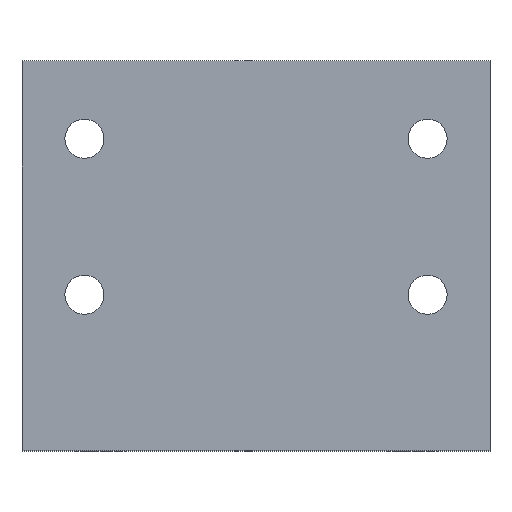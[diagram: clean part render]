
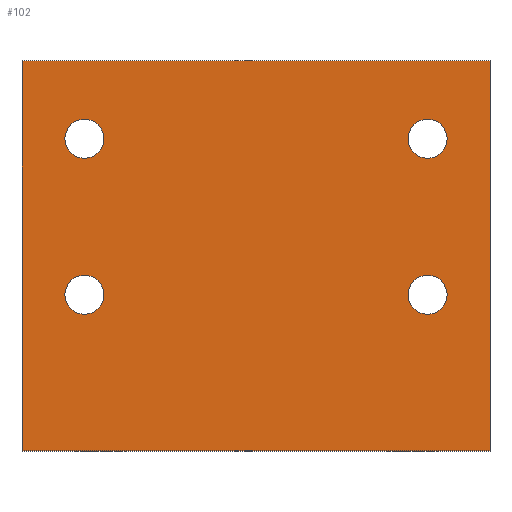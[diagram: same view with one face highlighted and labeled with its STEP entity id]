
A CAD part, top view. The second image highlights one B-rep face of the part: STEP entity #102.
In plain terms, the highlighted planar face has unit normal (0, 0, 1).
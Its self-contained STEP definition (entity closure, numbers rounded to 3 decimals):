
#14 = CARTESIAN_POINT ( 'NONE',  ( 26., 10., 0. ) ) ;
#16 = EDGE_CURVE ( 'NONE', #321, #873, #74, .T. ) ;
#18 = DIRECTION ( 'NONE',  ( 1., 0., 0. ) ) ;
#20 = ORIENTED_EDGE ( 'NONE', *, *, #746, .F. ) ;
#28 = CARTESIAN_POINT ( 'NONE',  ( 30., 25., 0. ) ) ;
#32 = EDGE_CURVE ( 'NONE', #90, #377, #576, .T. ) ;
#38 = CIRCLE ( 'NONE', #727, 1.25 ) ;
#44 = DIRECTION ( 'NONE',  ( 1., 0., 0. ) ) ;
#53 = CARTESIAN_POINT ( 'NONE',  ( 0., 25., 0. ) ) ;
#62 = CARTESIAN_POINT ( 'NONE',  ( 2.75, 10., 0. ) ) ;
#73 = ORIENTED_EDGE ( 'NONE', *, *, #556, .F. ) ;
#74 = CIRCLE ( 'NONE', #156, 1.25 ) ;
#84 = DIRECTION ( 'NONE',  ( 0., 0., 1. ) ) ;
#90 = VERTEX_POINT ( 'NONE', #856 ) ;
#94 = CARTESIAN_POINT ( 'NONE',  ( 30., 25., 0. ) ) ;
#102 = ADVANCED_FACE ( 'NONE', ( #785, #597, #761, #820, #203 ), #310, .F. ) ;
#105 = CARTESIAN_POINT ( 'NONE',  ( 26., 20., 0. ) ) ;
#108 = EDGE_CURVE ( 'NONE', #829, #307, #429, .T. ) ;
#109 = LINE ( 'NONE', #94, #819 ) ;
#122 = ORIENTED_EDGE ( 'NONE', *, *, #700, .F. ) ;
#128 = VERTEX_POINT ( 'NONE', #305 ) ;
#129 = VECTOR ( 'NONE', #664, 1000. ) ;
#132 = EDGE_CURVE ( 'NONE', #307, #829, #38, .T. ) ;
#135 = AXIS2_PLACEMENT_3D ( 'NONE', #425, #84, #18 ) ;
#138 = ORIENTED_EDGE ( 'NONE', *, *, #16, .F. ) ;
#156 = AXIS2_PLACEMENT_3D ( 'NONE', #14, #613, #546 ) ;
#162 = DIRECTION ( 'NONE',  ( 0., 0., 1. ) ) ;
#171 = CARTESIAN_POINT ( 'NONE',  ( 4., 10., 0. ) ) ;
#193 = DIRECTION ( 'NONE',  ( 0., 0., 1. ) ) ;
#201 = CIRCLE ( 'NONE', #809, 1.25 ) ;
#203 = FACE_OUTER_BOUND ( 'NONE', #529, .T. ) ;
#205 = DIRECTION ( 'NONE',  ( 0., 0., 1. ) ) ;
#211 = VERTEX_POINT ( 'NONE', #867 ) ;
#219 = DIRECTION ( 'NONE',  ( -1., 0., 0. ) ) ;
#226 = CIRCLE ( 'NONE', #702, 1.25 ) ;
#241 = VECTOR ( 'NONE', #219, 1000. ) ;
#265 = DIRECTION ( 'NONE',  ( 0., 0., 1. ) ) ;
#286 = CARTESIAN_POINT ( 'NONE',  ( 0., 0., 0. ) ) ;
#305 = CARTESIAN_POINT ( 'NONE',  ( 5.25, 20., 0. ) ) ;
#306 = AXIS2_PLACEMENT_3D ( 'NONE', #848, #832, #766 ) ;
#307 = VERTEX_POINT ( 'NONE', #670 ) ;
#310 = PLANE ( 'NONE',  #765 ) ;
#317 = DIRECTION ( 'NONE',  ( 0., 0., 1. ) ) ;
#321 = VERTEX_POINT ( 'NONE', #826 ) ;
#331 = EDGE_LOOP ( 'NONE', ( #478, #138 ) ) ;
#334 = ORIENTED_EDGE ( 'NONE', *, *, #108, .F. ) ;
#342 = VERTEX_POINT ( 'NONE', #412 ) ;
#371 = ORIENTED_EDGE ( 'NONE', *, *, #789, .F. ) ;
#377 = VERTEX_POINT ( 'NONE', #286 ) ;
#386 = EDGE_LOOP ( 'NONE', ( #563, #122 ) ) ;
#412 = CARTESIAN_POINT ( 'NONE',  ( 30., 25., 0. ) ) ;
#420 = EDGE_CURVE ( 'NONE', #873, #321, #763, .T. ) ;
#423 = CARTESIAN_POINT ( 'NONE',  ( 30., 0., 0. ) ) ;
#425 = CARTESIAN_POINT ( 'NONE',  ( 26., 10., 0. ) ) ;
#427 = DIRECTION ( 'NONE',  ( -1., 0., 0. ) ) ;
#429 = CIRCLE ( 'NONE', #676, 1.25 ) ;
#430 = DIRECTION ( 'NONE',  ( 1., 0., 0. ) ) ;
#452 = EDGE_CURVE ( 'NONE', #128, #840, #532, .T. ) ;
#461 = DIRECTION ( 'NONE',  ( 1., 0., 0. ) ) ;
#478 = ORIENTED_EDGE ( 'NONE', *, *, #420, .F. ) ;
#489 = CIRCLE ( 'NONE', #646, 1.25 ) ;
#503 = ORIENTED_EDGE ( 'NONE', *, *, #724, .F. ) ;
#518 = VERTEX_POINT ( 'NONE', #837 ) ;
#524 = CARTESIAN_POINT ( 'NONE',  ( 2.75, 20., 0. ) ) ;
#529 = EDGE_LOOP ( 'NONE', ( #699, #371, #73, #20 ) ) ;
#532 = CIRCLE ( 'NONE', #306, 1.25 ) ;
#546 = DIRECTION ( 'NONE',  ( 1., 0., 0. ) ) ;
#551 = LINE ( 'NONE', #864, #650 ) ;
#556 = EDGE_CURVE ( 'NONE', #751, #342, #109, .T. ) ;
#563 = ORIENTED_EDGE ( 'NONE', *, *, #452, .F. ) ;
#576 = LINE ( 'NONE', #423, #241 ) ;
#578 = CARTESIAN_POINT ( 'NONE',  ( 30., 25., 0. ) ) ;
#581 = DIRECTION ( 'NONE',  ( 1., 0., 0. ) ) ;
#584 = CARTESIAN_POINT ( 'NONE',  ( 4., 20., 0. ) ) ;
#597 = FACE_BOUND ( 'NONE', #852, .T. ) ;
#613 = DIRECTION ( 'NONE',  ( 0., 0., 1. ) ) ;
#635 = DIRECTION ( 'NONE',  ( 0., 0., -1. ) ) ;
#636 = DIRECTION ( 'NONE',  ( 1., 0., 0. ) ) ;
#646 = AXIS2_PLACEMENT_3D ( 'NONE', #747, #205, #461 ) ;
#650 = VECTOR ( 'NONE', #653, 1000. ) ;
#653 = DIRECTION ( 'NONE',  ( 0., 1., 0. ) ) ;
#664 = DIRECTION ( 'NONE',  ( 0., -1., 0. ) ) ;
#670 = CARTESIAN_POINT ( 'NONE',  ( 5.25, 10., 0. ) ) ;
#674 = CARTESIAN_POINT ( 'NONE',  ( 27.25, 10., 0. ) ) ;
#676 = AXIS2_PLACEMENT_3D ( 'NONE', #171, #162, #636 ) ;
#699 = ORIENTED_EDGE ( 'NONE', *, *, #32, .F. ) ;
#700 = EDGE_CURVE ( 'NONE', #840, #128, #226, .T. ) ;
#702 = AXIS2_PLACEMENT_3D ( 'NONE', #584, #193, #581 ) ;
#711 = ORIENTED_EDGE ( 'NONE', *, *, #132, .F. ) ;
#724 = EDGE_CURVE ( 'NONE', #211, #518, #201, .T. ) ;
#727 = AXIS2_PLACEMENT_3D ( 'NONE', #868, #317, #786 ) ;
#746 = EDGE_CURVE ( 'NONE', #377, #751, #551, .T. ) ;
#747 = CARTESIAN_POINT ( 'NONE',  ( 26., 20., 0. ) ) ;
#751 = VERTEX_POINT ( 'NONE', #53 ) ;
#761 = FACE_BOUND ( 'NONE', #331, .T. ) ;
#763 = CIRCLE ( 'NONE', #135, 1.25 ) ;
#765 = AXIS2_PLACEMENT_3D ( 'NONE', #28, #635, #427 ) ;
#766 = DIRECTION ( 'NONE',  ( 1., 0., 0. ) ) ;
#785 = FACE_BOUND ( 'NONE', #386, .T. ) ;
#786 = DIRECTION ( 'NONE',  ( 1., 0., 0. ) ) ;
#789 = EDGE_CURVE ( 'NONE', #342, #90, #885, .T. ) ;
#809 = AXIS2_PLACEMENT_3D ( 'NONE', #105, #265, #44 ) ;
#816 = ORIENTED_EDGE ( 'NONE', *, *, #838, .F. ) ;
#819 = VECTOR ( 'NONE', #430, 1000. ) ;
#820 = FACE_BOUND ( 'NONE', #859, .T. ) ;
#826 = CARTESIAN_POINT ( 'NONE',  ( 24.75, 10., 0. ) ) ;
#829 = VERTEX_POINT ( 'NONE', #62 ) ;
#832 = DIRECTION ( 'NONE',  ( 0., 0., 1. ) ) ;
#837 = CARTESIAN_POINT ( 'NONE',  ( 27.25, 20., 0. ) ) ;
#838 = EDGE_CURVE ( 'NONE', #518, #211, #489, .T. ) ;
#840 = VERTEX_POINT ( 'NONE', #524 ) ;
#848 = CARTESIAN_POINT ( 'NONE',  ( 4., 20., 0. ) ) ;
#852 = EDGE_LOOP ( 'NONE', ( #816, #503 ) ) ;
#856 = CARTESIAN_POINT ( 'NONE',  ( 30., 0., 0. ) ) ;
#859 = EDGE_LOOP ( 'NONE', ( #711, #334 ) ) ;
#864 = CARTESIAN_POINT ( 'NONE',  ( 0., 25., 0. ) ) ;
#867 = CARTESIAN_POINT ( 'NONE',  ( 24.75, 20., 0. ) ) ;
#868 = CARTESIAN_POINT ( 'NONE',  ( 4., 10., 0. ) ) ;
#873 = VERTEX_POINT ( 'NONE', #674 ) ;
#885 = LINE ( 'NONE', #578, #129 ) ;
